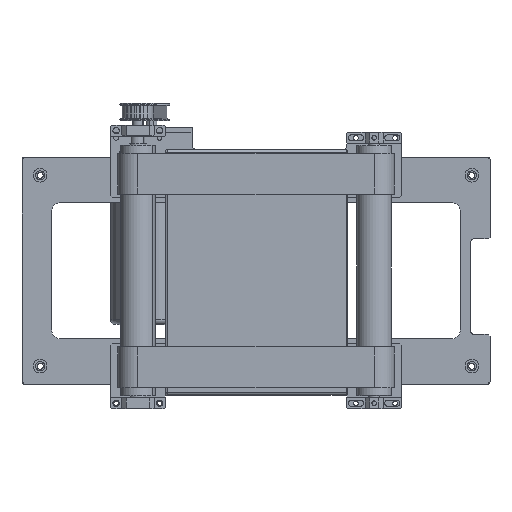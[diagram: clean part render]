
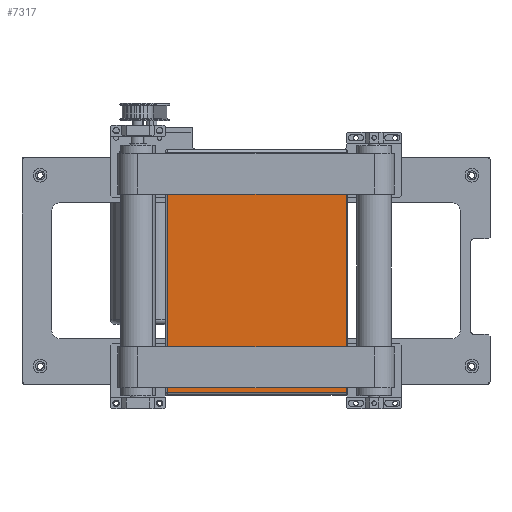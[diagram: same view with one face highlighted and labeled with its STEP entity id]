
A CAD part, top view. The second image highlights one B-rep face of the part: STEP entity #7317.
In plain terms, the highlighted planar face has unit normal (0, 0, 1) as drawn and (0, -1, 0) by its records, which use the part's own axes.
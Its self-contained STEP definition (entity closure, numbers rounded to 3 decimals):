
#5310=PLANE('',#41678);
#7317=ADVANCED_FACE('',(#9786),#5310,.T.);
#9786=FACE_OUTER_BOUND('',#12119,.T.);
#12119=EDGE_LOOP('',(#28165,#28166,#28167,#28168));
#14524=LINE('',#72258,#17421);
#14525=LINE('',#72261,#17422);
#14526=LINE('',#72263,#17423);
#14527=LINE('',#72265,#17424);
#17421=VECTOR('',#50157,1.);
#17422=VECTOR('',#50158,1.);
#17423=VECTOR('',#50159,1.);
#17424=VECTOR('',#50160,1.);
#28165=ORIENTED_EDGE('',*,*,#37482,.T.);
#28166=ORIENTED_EDGE('',*,*,#37483,.T.);
#28167=ORIENTED_EDGE('',*,*,#37484,.T.);
#28168=ORIENTED_EDGE('',*,*,#37485,.T.);
#32059=VERTEX_POINT('',#72259);
#32060=VERTEX_POINT('',#72260);
#32061=VERTEX_POINT('',#72262);
#32062=VERTEX_POINT('',#72264);
#37482=EDGE_CURVE('',#32059,#32060,#14524,.T.);
#37483=EDGE_CURVE('',#32060,#32061,#14525,.T.);
#37484=EDGE_CURVE('',#32061,#32062,#14526,.T.);
#37485=EDGE_CURVE('',#32062,#32059,#14527,.T.);
#41678=AXIS2_PLACEMENT_3D('',#72266,#50161,#50162);
#50157=DIRECTION('',(-1.,0.,0.));
#50158=DIRECTION('',(0.,0.,-1.));
#50159=DIRECTION('',(1.,0.,0.));
#50160=DIRECTION('',(0.,0.,1.));
#50161=DIRECTION('',(0.,-1.,0.));
#50162=DIRECTION('',(0.,0.,1.));
#72258=CARTESIAN_POINT('',(100.,-2.5,131.763));
#72259=CARTESIAN_POINT('',(98.5,-2.5,131.763));
#72260=CARTESIAN_POINT('',(-98.5,-2.5,131.763));
#72261=CARTESIAN_POINT('',(-98.5,-2.5,-132.5));
#72262=CARTESIAN_POINT('',(-98.5,-2.5,-131.763));
#72263=CARTESIAN_POINT('',(-100.,-2.5,-131.763));
#72264=CARTESIAN_POINT('',(98.5,-2.5,-131.763));
#72265=CARTESIAN_POINT('',(98.5,-2.5,-132.5));
#72266=CARTESIAN_POINT('',(100.,-2.5,-132.5));
